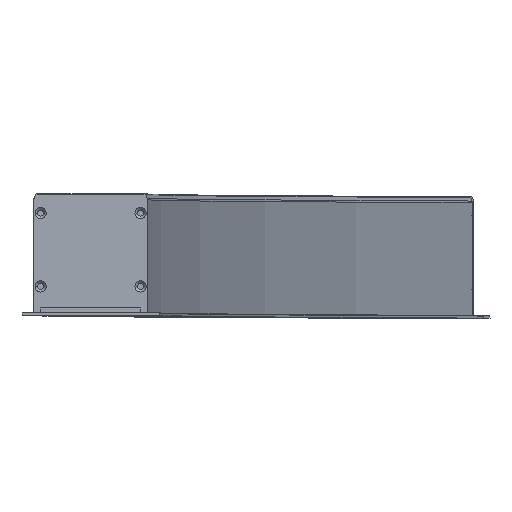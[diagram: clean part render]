
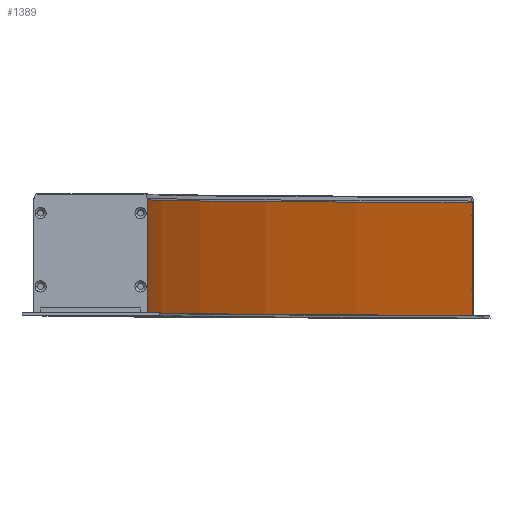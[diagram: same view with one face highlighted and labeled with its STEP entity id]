
A CAD part, top view. The second image highlights one B-rep face of the part: STEP entity #1389.
In plain terms, the highlighted conical face has half-angle 0.009 degrees and reference radius 2861.9 mm.
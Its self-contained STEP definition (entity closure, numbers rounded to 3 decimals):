
#25 = LINE ( 'NONE', #286, #1936 ) ;
#59 = CARTESIAN_POINT ( 'NONE',  ( 255.938, 77.428, -1095.206 ) ) ;
#138 = AXIS2_PLACEMENT_3D ( 'NONE', #1558, #1395, #1890 ) ;
#154 = VECTOR ( 'NONE', #282, 1000. ) ;
#213 = ORIENTED_EDGE ( 'NONE', *, *, #1898, .F. ) ;
#239 = CIRCLE ( 'NONE', #138, 2861.912 ) ;
#282 = DIRECTION ( 'NONE',  ( 0., 1., 0. ) ) ;
#286 = CARTESIAN_POINT ( 'NONE',  ( 38.088, 77.428, 0. ) ) ;
#477 = VERTEX_POINT ( 'NONE', #672 ) ;
#620 = ORIENTED_EDGE ( 'NONE', *, *, #1309, .T. ) ;
#672 = CARTESIAN_POINT ( 'NONE',  ( 255.938, 77.428, -1095.206 ) ) ;
#831 = EDGE_LOOP ( 'NONE', ( #213, #1137, #2364, #620 ) ) ;
#921 = CIRCLE ( 'NONE', #1040, 2861.9 ) ;
#930 = CONICAL_SURFACE ( 'NONE', #1549, 2861.9, 0. ) ;
#1040 = AXIS2_PLACEMENT_3D ( 'NONE', #2183, #2190, #2195 ) ;
#1131 = CARTESIAN_POINT ( 'NONE',  ( 38.088, 77.428, 0. ) ) ;
#1137 = ORIENTED_EDGE ( 'NONE', *, *, #1948, .F. ) ;
#1223 = DIRECTION ( 'NONE',  ( 0., 1., 0. ) ) ;
#1248 = VERTEX_POINT ( 'NONE', #1131 ) ;
#1282 = VERTEX_POINT ( 'NONE', #2350 ) ;
#1288 = LINE ( 'NONE', #59, #154 ) ;
#1309 = EDGE_CURVE ( 'NONE', #1282, #477, #1288, .T. ) ;
#1350 = CARTESIAN_POINT ( 'NONE',  ( 38.1, 1.806, 0. ) ) ;
#1389 = ADVANCED_FACE ( 'NONE', ( #1471 ), #930, .F. ) ;
#1395 = DIRECTION ( 'NONE',  ( 0., -1., 0. ) ) ;
#1471 = FACE_OUTER_BOUND ( 'NONE', #831, .T. ) ;
#1549 = AXIS2_PLACEMENT_3D ( 'NONE', #1755, #1788, #1656 ) ;
#1558 = CARTESIAN_POINT ( 'NONE',  ( 2900., 77.428, 0. ) ) ;
#1656 = DIRECTION ( 'NONE',  ( 0., 0., 1. ) ) ;
#1755 = CARTESIAN_POINT ( 'NONE',  ( 2900., 1.806, 0. ) ) ;
#1788 = DIRECTION ( 'NONE',  ( 0., 1., 0. ) ) ;
#1890 = DIRECTION ( 'NONE',  ( -1., 0., 0. ) ) ;
#1898 = EDGE_CURVE ( 'NONE', #1248, #477, #239, .T. ) ;
#1936 = VECTOR ( 'NONE', #1223, 1000. ) ;
#1948 = EDGE_CURVE ( 'NONE', #2004, #1248, #25, .T. ) ;
#2004 = VERTEX_POINT ( 'NONE', #1350 ) ;
#2183 = CARTESIAN_POINT ( 'NONE',  ( 2900., 1.806, 0. ) ) ;
#2190 = DIRECTION ( 'NONE',  ( 0., -1., 0. ) ) ;
#2195 = DIRECTION ( 'NONE',  ( -1., 0., 0. ) ) ;
#2262 = EDGE_CURVE ( 'NONE', #2004, #1282, #921, .T. ) ;
#2350 = CARTESIAN_POINT ( 'NONE',  ( 255.949, 1.806, -1095.202 ) ) ;
#2364 = ORIENTED_EDGE ( 'NONE', *, *, #2262, .T. ) ;
